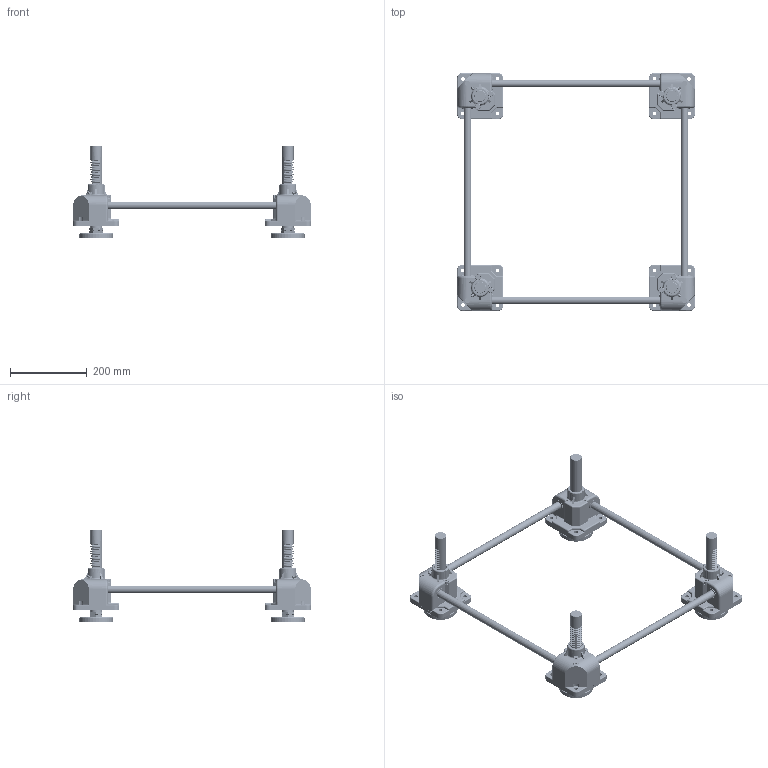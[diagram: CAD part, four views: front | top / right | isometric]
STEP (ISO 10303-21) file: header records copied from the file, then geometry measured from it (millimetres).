
FILE_DESCRIPTION(('STEP AP203'),'1');
FILE_NAME('SP900FU-500x500-100ST.stp','2022-06-15T01:48:14',(' '),(' '),'Spatial InterOp 3D',' ',' ');
FILE_SCHEMA(('CONFIG_CONTROL_DESIGN'));
Length unit declared in the file: millimetre
Products named in the file (103): SP900FU-500x500-100ST; ASSEM1; Flange.1-Part; Flange.1; Joint.1; Nut.1; Flange.2-Part; Flange.2; Joint.2; Nut.2; Flange.3-Part; Flange.3; Joint.3; Nut.3; Flange.4-Part; Flange.4; Joint.4; Nut.4; Body.1-Part; Bolt; Nipple; Gear Box.1(Upper); UpperGearBox; Gear Box.1(Lower); LowerGearBox; RJ05-4SCJ-610X600-100ST_CAP; LABEL-B.1; ___; 파트18; __ SP500; Body.2-Part; Gear Box.2(Upper); Symmetry of UpperGearBox; Gear Box.2(Lower); Symmetry of LowerGearBox; Body.3-Part; Gear Box.3(Upper); Symmetry of Symmetry of UpperGearBox_1; Gear Box.3(Lower); Symmetry of Symmetry of LowerGearBox_1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
Assembly tree (104 placements, depth 6):
  SP900FU-500x500-100ST
    ASSEM1
    (unnamed)
    (unnamed)
    (unnamed)
    Flange.1-Part
      Flange.1
      Joint.1
      Nut.1
    Flange.2-Part
      Flange.2
      Joint.2
      Nut.2
    Flange.3-Part
      Flange.3
      Joint.3
      Nut.3
    Flange.4-Part
      Flange.4
      Joint.4
      Nut.4
    Body.1-Part
      Bolt
      Bolt
      Bolt
      Nipple
      Gear Box.1(Upper)
        UpperGearBox
        UpperGearBox
        UpperGearBox
        UpperGearBox
      Gear Box.1(Lower)
        LowerGearBox
        LowerGearBox
        LowerGearBox
        LowerGearBox
      __ SP500
        ___
          RJ05-4SCJ-610X600-100ST_CAP
            LABEL-B.1
          파트18
    Body.2-Part
      Bolt
      Bolt
      Bolt
      Nipple
      Gear Box.2(Upper)
        Symmetry of UpperGearBox
        Symmetry of UpperGearBox
        Symmetry of UpperGearBox
        Symmetry of UpperGearBox
      Gear Box.2(Lower)
        Symmetry of LowerGearBox
        Symmetry of LowerGearBox
        Symmetry of LowerGearBox
        Symmetry of LowerGearBox
      __ SP500
        ___
          RJ05-4SCJ-610X600-100ST_CAP
            LABEL-B.1
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Bounding box: 620.44 x 620.44 x 240 mm (x, y, z)
Volume: 1598973.5 mm3; surface area: 868993.9 mm2
Topology: 64 solids, 96 shells, 10212 faces, 28852 edges, 18716 vertices
Faces by surface type: plane 7812, cylinder 1768, torus 204, bspline 184, sphere 100, cone 80, extrusion 36, revolution 28
Full cylindrical faces by diameter (mm): 3.113 x4, 6 x4, 6.6 x4, 8 x12, 12 x16, 14 x12, 20 x4, 25 x8, 27 x4, 30 x4, 37 x4, 38 x4, 44 x4, 45 x4, 88 x4
Entity records: 358198 total; most frequent: CARTESIAN_POINT 93875, ORIENTED_EDGE 56080, DIRECTION 49670, EDGE_CURVE 28156, VECTOR 23244, LINE 23208, VERTEX_POINT 18508, AXIS2_PLACEMENT_3D 13199
